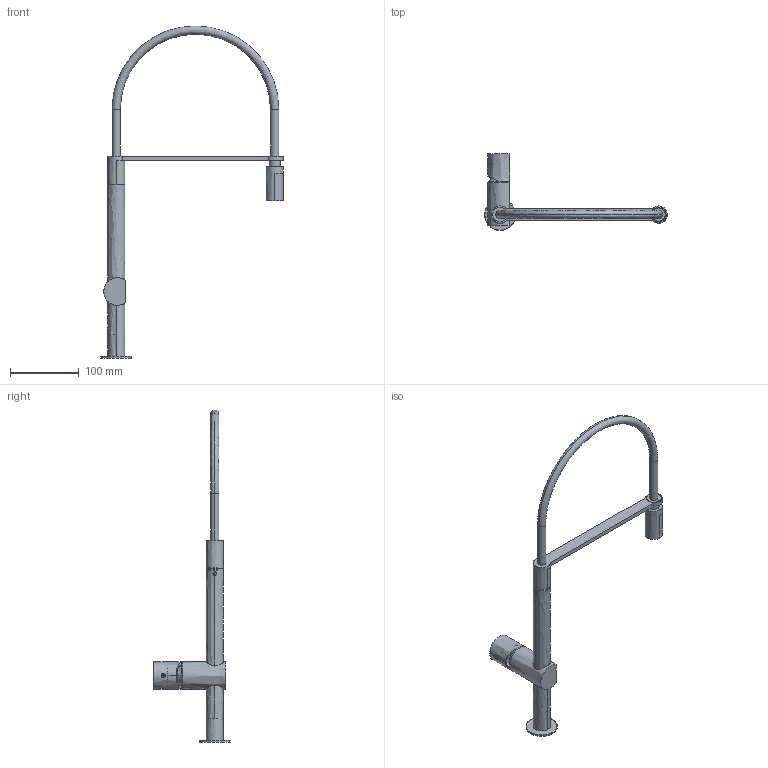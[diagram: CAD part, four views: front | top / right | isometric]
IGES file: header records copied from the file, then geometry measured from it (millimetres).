
Start section:  PTC IGES file: 89172B.igs
Global section: file name: 89172B.igs; native system: Creo Parametric by PTC Inc.; preprocessor: 2018100; author: carloff; organization: Unknown; date: 20210910.163555; units: millimetre
Bounding box: 265 x 111.3 x 482 mm (x, y, z)
Surface area: 102565 mm2 (no closed solid volume)
Topology: 0 solids, 0 shells, 285 faces, 1364 edges, 1350 vertices
Faces by surface type: revolution 201, bspline 84
